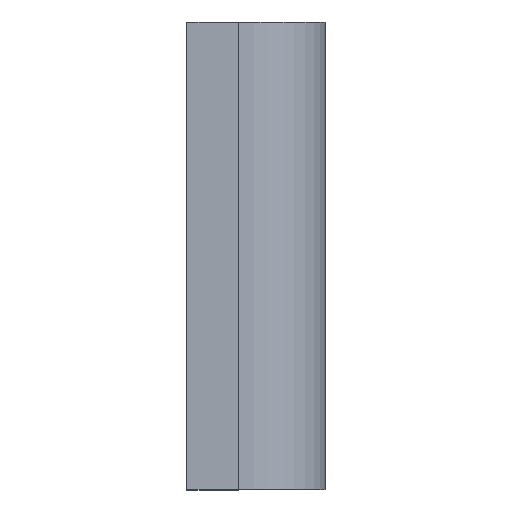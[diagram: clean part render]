
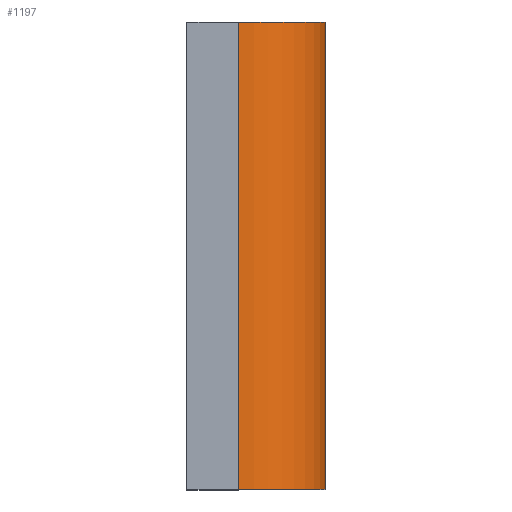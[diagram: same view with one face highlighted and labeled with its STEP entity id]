
A CAD part, top view. The second image highlights one B-rep face of the part: STEP entity #1197.
In plain terms, the highlighted cylindrical face has radius 5 mm (diameter 10 mm), a partial arc.
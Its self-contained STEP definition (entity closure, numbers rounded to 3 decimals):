
#44 = PLANE('',#45);
#45 = AXIS2_PLACEMENT_3D('',#46,#47,#48);
#46 = CARTESIAN_POINT('',(36.,-45.639,-13.5));
#47 = DIRECTION('',(0.,1.,0.));
#48 = DIRECTION('',(0.,0.,1.));
#100 = PLANE('',#101);
#101 = AXIS2_PLACEMENT_3D('',#102,#103,#104);
#102 = CARTESIAN_POINT('',(36.,-18.639,-13.5));
#103 = DIRECTION('',(0.,1.,0.));
#104 = DIRECTION('',(0.,0.,1.));
#338 = VERTEX_POINT('',#339);
#339 = CARTESIAN_POINT('',(39.,-45.639,13.5));
#353 = PLANE('',#354);
#354 = AXIS2_PLACEMENT_3D('',#355,#356,#357);
#355 = CARTESIAN_POINT('',(-44.,-68.,13.5));
#356 = DIRECTION('',(0.,0.,1.));
#357 = DIRECTION('',(1.,0.,0.));
#365 = EDGE_CURVE('',#366,#338,#368,.T.);
#366 = VERTEX_POINT('',#367);
#367 = CARTESIAN_POINT('',(44.,-45.639,8.5));
#368 = SURFACE_CURVE('',#369,(#374,#385),.PCURVE_S1.);
#369 = CIRCLE('',#370,5.);
#370 = AXIS2_PLACEMENT_3D('',#371,#372,#373);
#371 = CARTESIAN_POINT('',(39.,-45.639,8.5));
#372 = DIRECTION('',(0.,-1.,-0.));
#373 = DIRECTION('',(1.,0.,-0.));
#374 = PCURVE('',#44,#375);
#375 = DEFINITIONAL_REPRESENTATION('',(#376),#384);
#376 = ( BOUNDED_CURVE() B_SPLINE_CURVE(2,(#377,#378,#379,#380,#381,#382
,#383),.UNSPECIFIED.,.T.,.F.) B_SPLINE_CURVE_WITH_KNOTS((1,2,2,2,2,1),(
    -2.094,0.,2.094,4.189,6.283,
8.378),.UNSPECIFIED.) CURVE() GEOMETRIC_REPRESENTATION_ITEM() 
RATIONAL_B_SPLINE_CURVE((1.,0.5,1.,0.5,1.,0.5,1.)) REPRESENTATION_ITEM(
  '') );
#377 = CARTESIAN_POINT('',(22.,8.));
#378 = CARTESIAN_POINT('',(30.66,8.));
#379 = CARTESIAN_POINT('',(26.33,0.5));
#380 = CARTESIAN_POINT('',(22.,-7.));
#381 = CARTESIAN_POINT('',(17.67,0.5));
#382 = CARTESIAN_POINT('',(13.34,8.));
#383 = CARTESIAN_POINT('',(22.,8.));
#384 = ( GEOMETRIC_REPRESENTATION_CONTEXT(2) 
PARAMETRIC_REPRESENTATION_CONTEXT() REPRESENTATION_CONTEXT('2D SPACE',''
  ) );
#385 = PCURVE('',#386,#391);
#386 = CYLINDRICAL_SURFACE('',#387,5.);
#387 = AXIS2_PLACEMENT_3D('',#388,#389,#390);
#388 = CARTESIAN_POINT('',(39.,49.,8.5));
#389 = DIRECTION('',(-0.,-1.,-0.));
#390 = DIRECTION('',(1.,0.,-0.));
#391 = DEFINITIONAL_REPRESENTATION('',(#392),#396);
#392 = LINE('',#393,#394);
#393 = CARTESIAN_POINT('',(0.,94.639));
#394 = VECTOR('',#395,1.);
#395 = DIRECTION('',(1.,0.));
#396 = ( GEOMETRIC_REPRESENTATION_CONTEXT(2) 
PARAMETRIC_REPRESENTATION_CONTEXT() REPRESENTATION_CONTEXT('2D SPACE',''
  ) );
#413 = PLANE('',#414);
#414 = AXIS2_PLACEMENT_3D('',#415,#416,#417);
#415 = CARTESIAN_POINT('',(44.,-68.,-13.5));
#416 = DIRECTION('',(1.,0.,0.));
#417 = DIRECTION('',(0.,0.,1.));
#645 = VERTEX_POINT('',#646);
#646 = CARTESIAN_POINT('',(39.,-18.639,13.5));
#667 = EDGE_CURVE('',#668,#645,#670,.T.);
#668 = VERTEX_POINT('',#669);
#669 = CARTESIAN_POINT('',(44.,-18.639,8.5));
#670 = SURFACE_CURVE('',#671,(#676,#687),.PCURVE_S1.);
#671 = CIRCLE('',#672,5.);
#672 = AXIS2_PLACEMENT_3D('',#673,#674,#675);
#673 = CARTESIAN_POINT('',(39.,-18.639,8.5));
#674 = DIRECTION('',(0.,-1.,-0.));
#675 = DIRECTION('',(1.,0.,-0.));
#676 = PCURVE('',#100,#677);
#677 = DEFINITIONAL_REPRESENTATION('',(#678),#686);
#678 = ( BOUNDED_CURVE() B_SPLINE_CURVE(2,(#679,#680,#681,#682,#683,#684
,#685),.UNSPECIFIED.,.T.,.F.) B_SPLINE_CURVE_WITH_KNOTS((1,2,2,2,2,1),(
    -2.094,0.,2.094,4.189,6.283,
8.378),.UNSPECIFIED.) CURVE() GEOMETRIC_REPRESENTATION_ITEM() 
RATIONAL_B_SPLINE_CURVE((1.,0.5,1.,0.5,1.,0.5,1.)) REPRESENTATION_ITEM(
  '') );
#679 = CARTESIAN_POINT('',(22.,8.));
#680 = CARTESIAN_POINT('',(30.66,8.));
#681 = CARTESIAN_POINT('',(26.33,0.5));
#682 = CARTESIAN_POINT('',(22.,-7.));
#683 = CARTESIAN_POINT('',(17.67,0.5));
#684 = CARTESIAN_POINT('',(13.34,8.));
#685 = CARTESIAN_POINT('',(22.,8.));
#686 = ( GEOMETRIC_REPRESENTATION_CONTEXT(2) 
PARAMETRIC_REPRESENTATION_CONTEXT() REPRESENTATION_CONTEXT('2D SPACE',''
  ) );
#687 = PCURVE('',#386,#688);
#688 = DEFINITIONAL_REPRESENTATION('',(#689),#693);
#689 = LINE('',#690,#691);
#690 = CARTESIAN_POINT('',(0.,67.639));
#691 = VECTOR('',#692,1.);
#692 = DIRECTION('',(1.,0.));
#693 = ( GEOMETRIC_REPRESENTATION_CONTEXT(2) 
PARAMETRIC_REPRESENTATION_CONTEXT() REPRESENTATION_CONTEXT('2D SPACE',''
  ) );
#1177 = EDGE_CURVE('',#668,#366,#1178,.T.);
#1178 = SURFACE_CURVE('',#1179,(#1183,#1190),.PCURVE_S1.);
#1179 = LINE('',#1180,#1181);
#1180 = CARTESIAN_POINT('',(44.,49.,8.5));
#1181 = VECTOR('',#1182,1.);
#1182 = DIRECTION('',(-0.,-1.,-0.));
#1183 = PCURVE('',#413,#1184);
#1184 = DEFINITIONAL_REPRESENTATION('',(#1185),#1189);
#1185 = LINE('',#1186,#1187);
#1186 = CARTESIAN_POINT('',(22.,-117.));
#1187 = VECTOR('',#1188,1.);
#1188 = DIRECTION('',(-0.,1.));
#1189 = ( GEOMETRIC_REPRESENTATION_CONTEXT(2) 
PARAMETRIC_REPRESENTATION_CONTEXT() REPRESENTATION_CONTEXT('2D SPACE',''
  ) );
#1190 = PCURVE('',#386,#1191);
#1191 = DEFINITIONAL_REPRESENTATION('',(#1192),#1196);
#1192 = LINE('',#1193,#1194);
#1193 = CARTESIAN_POINT('',(0.,0.));
#1194 = VECTOR('',#1195,1.);
#1195 = DIRECTION('',(0.,1.));
#1196 = ( GEOMETRIC_REPRESENTATION_CONTEXT(2) 
PARAMETRIC_REPRESENTATION_CONTEXT() REPRESENTATION_CONTEXT('2D SPACE',''
  ) );
#1197 = ADVANCED_FACE('',(#1198),#386,.T.);
#1198 = FACE_BOUND('',#1199,.T.);
#1199 = EDGE_LOOP('',(#1200,#1201,#1202,#1223));
#1200 = ORIENTED_EDGE('',*,*,#1177,.F.);
#1201 = ORIENTED_EDGE('',*,*,#667,.T.);
#1202 = ORIENTED_EDGE('',*,*,#1203,.T.);
#1203 = EDGE_CURVE('',#645,#338,#1204,.T.);
#1204 = SURFACE_CURVE('',#1205,(#1209,#1216),.PCURVE_S1.);
#1205 = LINE('',#1206,#1207);
#1206 = CARTESIAN_POINT('',(39.,49.,13.5));
#1207 = VECTOR('',#1208,1.);
#1208 = DIRECTION('',(-0.,-1.,-0.));
#1209 = PCURVE('',#386,#1210);
#1210 = DEFINITIONAL_REPRESENTATION('',(#1211),#1215);
#1211 = LINE('',#1212,#1213);
#1212 = CARTESIAN_POINT('',(1.571,0.));
#1213 = VECTOR('',#1214,1.);
#1214 = DIRECTION('',(0.,1.));
#1215 = ( GEOMETRIC_REPRESENTATION_CONTEXT(2) 
PARAMETRIC_REPRESENTATION_CONTEXT() REPRESENTATION_CONTEXT('2D SPACE',''
  ) );
#1216 = PCURVE('',#353,#1217);
#1217 = DEFINITIONAL_REPRESENTATION('',(#1218),#1222);
#1218 = LINE('',#1219,#1220);
#1219 = CARTESIAN_POINT('',(83.,117.));
#1220 = VECTOR('',#1221,1.);
#1221 = DIRECTION('',(-0.,-1.));
#1222 = ( GEOMETRIC_REPRESENTATION_CONTEXT(2) 
PARAMETRIC_REPRESENTATION_CONTEXT() REPRESENTATION_CONTEXT('2D SPACE',''
  ) );
#1223 = ORIENTED_EDGE('',*,*,#365,.F.);
